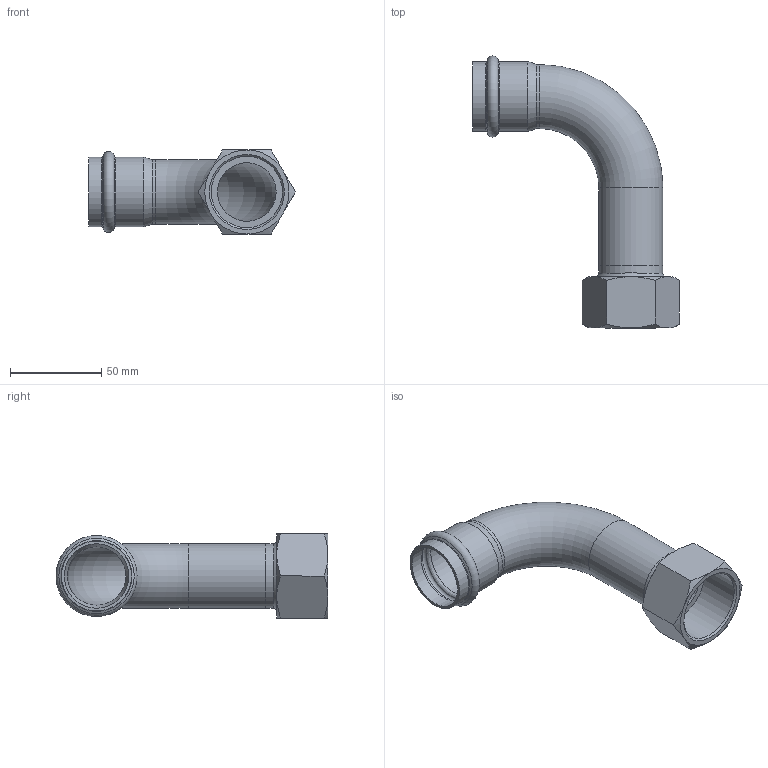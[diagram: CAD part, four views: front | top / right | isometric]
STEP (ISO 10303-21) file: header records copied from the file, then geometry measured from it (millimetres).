
FILE_DESCRIPTION((''),'2;1');
FILE_NAME('G:\Nirosan-Schmiedefeld\Technics\CAD\Bauteile VA\035\69002G35114(2).stp','2011-09-06T11:15:56',('herberg'),(''),'Autodesk Inventor 2009','Autodesk Inventor 2009','');
FILE_SCHEMA(('AUTOMOTIVE_DESIGN { 1 0 10303 214 1 1 1 1 }'));
Length unit declared in the file: millimetre
Products named in the file (3): 69002G35114(2); 69001A35(1); IG35114(1)
Assembly tree (2 placements, depth 2):
  69002G35114(2)
    69001A35(1)
    IG35114(1)
Bounding box: 113.06 x 148.65 x 46 mm (x, y, z)
Volume: 46340.8 mm3; surface area: 45876.7 mm2
Topology: 2 solids, 2 shells, 49 faces, 104 edges, 61 vertices
Faces by surface type: cone 17, plane 11, cylinder 9, bspline 8, torus 4
Full cylindrical faces by diameter (mm): 32 x2, 35 x3, 35.25 x2, 38.25 x2
Entity records: 1404 total; most frequent: CARTESIAN_POINT 485, DIRECTION 182, ORIENTED_EDGE 144, AXIS2_PLACEMENT_3D 88, EDGE_LOOP 80, EDGE_CURVE 72, VERTEX_POINT 54, FACE_OUTER_BOUND 49
